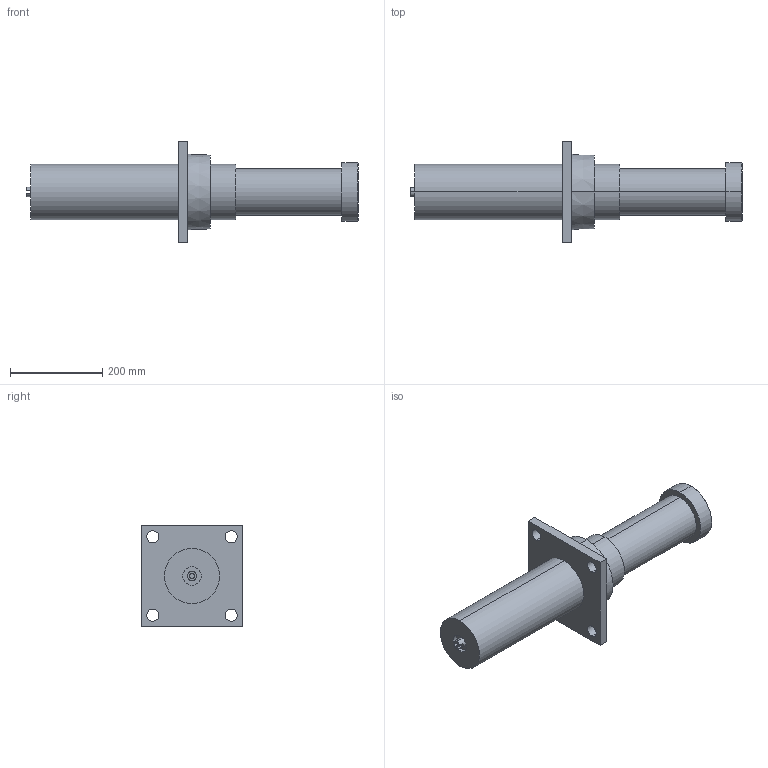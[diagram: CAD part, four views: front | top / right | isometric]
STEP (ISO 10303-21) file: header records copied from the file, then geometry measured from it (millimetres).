
FILE_DESCRIPTION (( 'STEP AP214' ), '1' );
FILE_NAME ('LDH120X200FF.STEP', '2019-01-21T04:58:57', ( 'user' ), ( 'Microsoft' ), 'SwSTEP 2.0', 'SolidWorks 2016', '' );
FILE_SCHEMA (( 'AUTOMOTIVE_DESIGN' ));
Length unit declared in the file: millimetre
Products named in the file (1): LDH120X200FF
Bounding box: 720 x 220 x 220 mm (x, y, z)
Volume: 8433065.5 mm3; surface area: 381734.1 mm2
Topology: 1 solids, 5 shells, 63 faces, 136 edges, 90 vertices
Faces by surface type: cylinder 30, plane 29, cone 4
Entity records: 1790 total; most frequent: DIRECTION 338, CARTESIAN_POINT 290, ORIENTED_EDGE 272, AXIS2_PLACEMENT_3D 138, EDGE_CURVE 136, VERTEX_POINT 90, EDGE_LOOP 78, CIRCLE 74
